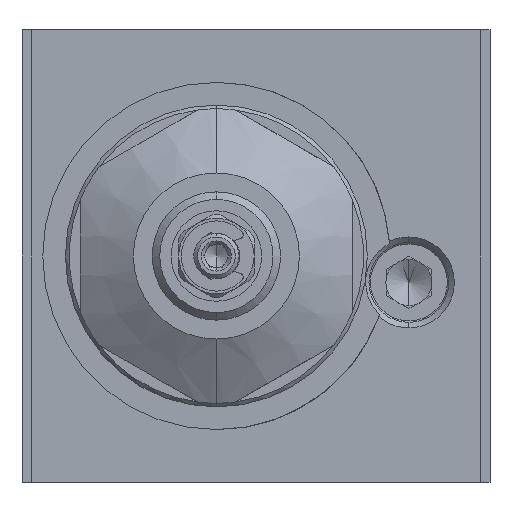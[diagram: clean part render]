
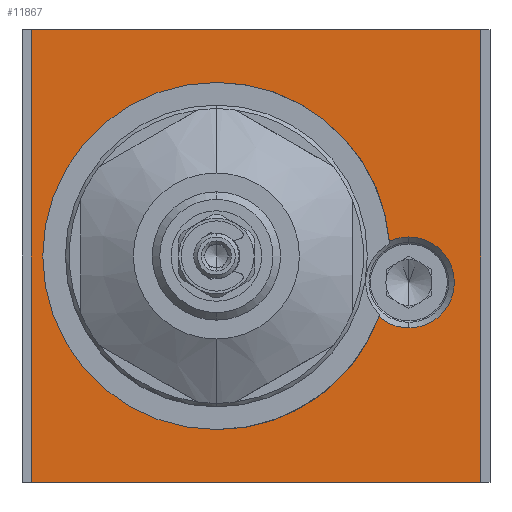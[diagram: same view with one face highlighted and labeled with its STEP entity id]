
A CAD part, left-side view. The second image highlights one B-rep face of the part: STEP entity #11867.
In plain terms, the highlighted planar face has unit normal (-1, 0, 0).
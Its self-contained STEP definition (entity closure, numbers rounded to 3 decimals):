
#3 = CARTESIAN_POINT ( 'NONE',  ( 0., -29.75, -30. ) ) ;
#45 = DIRECTION ( 'NONE',  ( -1., 0., 0. ) ) ;
#106 = DIRECTION ( 'NONE',  ( 0., 1., 0. ) ) ;
#133 = VERTEX_POINT ( 'NONE', #13605 ) ;
#189 = VECTOR ( 'NONE', #8973, 1000. ) ;
#218 = VECTOR ( 'NONE', #15744, 1000. ) ;
#223 = CIRCLE ( 'NONE', #12690, 6.025 ) ;
#237 = LINE ( 'NONE', #3878, #189 ) ;
#708 = DIRECTION ( 'NONE',  ( -1., 0., 0. ) ) ;
#917 = AXIS2_PLACEMENT_3D ( 'NONE', #6360, #15763, #7652 ) ;
#1204 = CARTESIAN_POINT ( 'NONE',  ( 0., 5.25, 0. ) ) ;
#1424 = CIRCLE ( 'NONE', #15116, 6.025 ) ;
#2170 = VERTEX_POINT ( 'NONE', #8910 ) ;
#2464 = DIRECTION ( 'NONE',  ( 0., 0., -1. ) ) ;
#2806 = VERTEX_POINT ( 'NONE', #4888 ) ;
#2857 = ORIENTED_EDGE ( 'NONE', *, *, #13688, .T. ) ;
#2943 = VECTOR ( 'NONE', #13544, 1000. ) ;
#2983 = VERTEX_POINT ( 'NONE', #8908 ) ;
#3321 = DIRECTION ( 'NONE',  ( -1., 0., 0. ) ) ;
#3878 = CARTESIAN_POINT ( 'NONE',  ( 0., -29.75, 30. ) ) ;
#3943 = CARTESIAN_POINT ( 'NONE',  ( 0., -20.25, -3.5 ) ) ;
#4591 = VERTEX_POINT ( 'NONE', #15976 ) ;
#4888 = CARTESIAN_POINT ( 'NONE',  ( 0., -17.668, 1.944 ) ) ;
#4962 = VERTEX_POINT ( 'NONE', #11589 ) ;
#5128 = VERTEX_POINT ( 'NONE', #13984 ) ;
#5201 = DIRECTION ( 'NONE',  ( 0., 0., -1. ) ) ;
#5665 = CIRCLE ( 'NONE', #12545, 23. ) ;
#5987 = CARTESIAN_POINT ( 'NONE',  ( 0., -29.75, 30. ) ) ;
#6360 = CARTESIAN_POINT ( 'NONE',  ( 0., -29.75, -30. ) ) ;
#6878 = CARTESIAN_POINT ( 'NONE',  ( 0., 5.25, 0. ) ) ;
#7472 = PLANE ( 'NONE',  #917 ) ;
#7622 = CARTESIAN_POINT ( 'NONE',  ( 0., -20.25, -3.5 ) ) ;
#7652 = DIRECTION ( 'NONE',  ( 0., 0., 1. ) ) ;
#8002 = ORIENTED_EDGE ( 'NONE', *, *, #13767, .F. ) ;
#8176 = DIRECTION ( 'NONE',  ( 0., 0., -1. ) ) ;
#8316 = CARTESIAN_POINT ( 'NONE',  ( 0., 5.25, 0. ) ) ;
#8323 = CARTESIAN_POINT ( 'NONE',  ( 0., -20.25, 2.525 ) ) ;
#8336 = FACE_OUTER_BOUND ( 'NONE', #16568, .T. ) ;
#8349 = FACE_BOUND ( 'NONE', #13357, .T. ) ;
#8908 = CARTESIAN_POINT ( 'NONE',  ( 0., 5.25, -23. ) ) ;
#8910 = CARTESIAN_POINT ( 'NONE',  ( 0., -20.25, -9.525 ) ) ;
#8964 = DIRECTION ( 'NONE',  ( 0., 0., -1. ) ) ;
#8973 = DIRECTION ( 'NONE',  ( 0., 0., 1. ) ) ;
#9119 = EDGE_CURVE ( 'NONE', #10493, #2806, #1424, .T. ) ;
#9251 = EDGE_CURVE ( 'NONE', #5128, #2170, #11756, .T. ) ;
#9449 = EDGE_CURVE ( 'NONE', #4591, #2983, #15739, .T. ) ;
#9577 = EDGE_CURVE ( 'NONE', #2983, #5128, #5665, .T. ) ;
#9687 = DIRECTION ( 'NONE',  ( 0., 0., -1. ) ) ;
#9743 = ORIENTED_EDGE ( 'NONE', *, *, #13742, .T. ) ;
#9766 = EDGE_CURVE ( 'NONE', #4962, #133, #10812, .T. ) ;
#9803 = EDGE_CURVE ( 'NONE', #2806, #4591, #10239, .T. ) ;
#10207 = DIRECTION ( 'NONE',  ( -1., 0., 0. ) ) ;
#10239 = CIRCLE ( 'NONE', #11779, 23. ) ;
#10274 = ORIENTED_EDGE ( 'NONE', *, *, #13707, .T. ) ;
#10493 = VERTEX_POINT ( 'NONE', #8323 ) ;
#10640 = ORIENTED_EDGE ( 'NONE', *, *, #9766, .T. ) ;
#10812 = LINE ( 'NONE', #12047, #2943 ) ;
#11066 = CARTESIAN_POINT ( 'NONE',  ( 0., -20.25, -3.5 ) ) ;
#11221 = VERTEX_POINT ( 'NONE', #3 ) ;
#11441 = ORIENTED_EDGE ( 'NONE', *, *, #9803, .F. ) ;
#11566 = CARTESIAN_POINT ( 'NONE',  ( 0., 29.75, -30. ) ) ;
#11589 = CARTESIAN_POINT ( 'NONE',  ( 0., 29.75, 30. ) ) ;
#11756 = CIRCLE ( 'NONE', #14367, 6.025 ) ;
#11779 = AXIS2_PLACEMENT_3D ( 'NONE', #6878, #16282, #8176 ) ;
#11798 = VECTOR ( 'NONE', #106, 1000. ) ;
#11833 = LINE ( 'NONE', #13036, #11798 ) ;
#11865 = ORIENTED_EDGE ( 'NONE', *, *, #9251, .F. ) ;
#11867 = ADVANCED_FACE ( 'NONE', ( #8336, #8349 ), #7472, .F. ) ;
#12047 = CARTESIAN_POINT ( 'NONE',  ( 0., 29.75, 30. ) ) ;
#12367 = DIRECTION ( 'NONE',  ( 0., 0., -1. ) ) ;
#12545 = AXIS2_PLACEMENT_3D ( 'NONE', #1204, #10207, #2464 ) ;
#12690 = AXIS2_PLACEMENT_3D ( 'NONE', #3943, #13102, #5201 ) ;
#13036 = CARTESIAN_POINT ( 'NONE',  ( 0., 29.75, 30. ) ) ;
#13102 = DIRECTION ( 'NONE',  ( -1., 0., 0. ) ) ;
#13291 = AXIS2_PLACEMENT_3D ( 'NONE', #8316, #708, #9687 ) ;
#13357 = EDGE_LOOP ( 'NONE', ( #11441, #16438, #8002, #11865, #13896, #16561 ) ) ;
#13544 = DIRECTION ( 'NONE',  ( 0., 0., -1. ) ) ;
#13605 = CARTESIAN_POINT ( 'NONE',  ( 0., 29.75, -30. ) ) ;
#13688 = EDGE_CURVE ( 'NONE', #133, #11221, #13924, .T. ) ;
#13707 = EDGE_CURVE ( 'NONE', #11221, #14795, #237, .T. ) ;
#13742 = EDGE_CURVE ( 'NONE', #14795, #4962, #11833, .T. ) ;
#13767 = EDGE_CURVE ( 'NONE', #2170, #10493, #223, .T. ) ;
#13896 = ORIENTED_EDGE ( 'NONE', *, *, #9577, .F. ) ;
#13924 = LINE ( 'NONE', #11566, #218 ) ;
#13984 = CARTESIAN_POINT ( 'NONE',  ( 0., -16.297, -8.047 ) ) ;
#14367 = AXIS2_PLACEMENT_3D ( 'NONE', #7622, #45, #8964 ) ;
#14795 = VERTEX_POINT ( 'NONE', #5987 ) ;
#15116 = AXIS2_PLACEMENT_3D ( 'NONE', #11066, #3321, #12367 ) ;
#15739 = CIRCLE ( 'NONE', #13291, 23. ) ;
#15744 = DIRECTION ( 'NONE',  ( 0., -1., 0. ) ) ;
#15763 = DIRECTION ( 'NONE',  ( 1., 0., 0. ) ) ;
#15976 = CARTESIAN_POINT ( 'NONE',  ( 0., 5.25, 23. ) ) ;
#16282 = DIRECTION ( 'NONE',  ( -1., 0., 0. ) ) ;
#16438 = ORIENTED_EDGE ( 'NONE', *, *, #9119, .F. ) ;
#16561 = ORIENTED_EDGE ( 'NONE', *, *, #9449, .F. ) ;
#16568 = EDGE_LOOP ( 'NONE', ( #2857, #10274, #9743, #10640 ) ) ;
